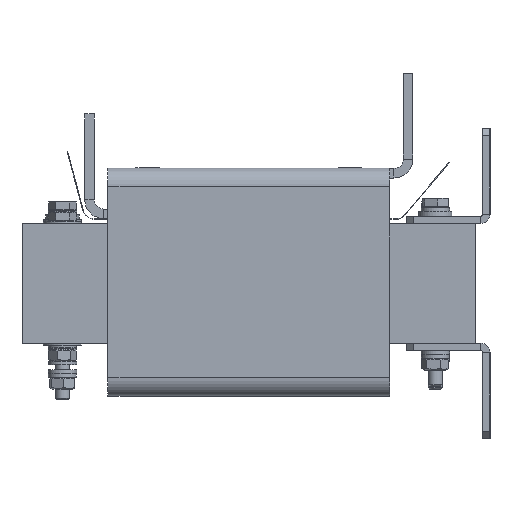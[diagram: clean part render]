
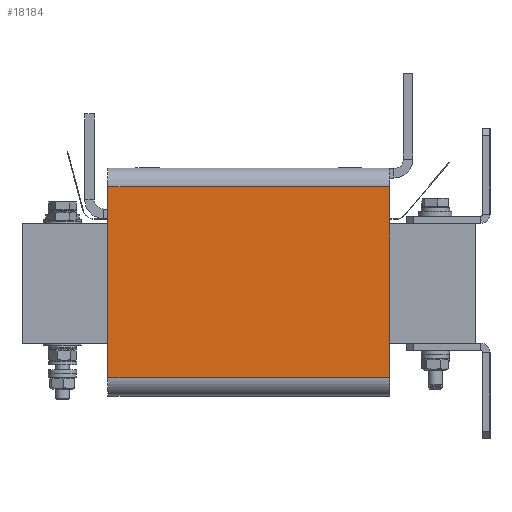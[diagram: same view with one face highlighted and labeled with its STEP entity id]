
A CAD part, left-side view. The second image highlights one B-rep face of the part: STEP entity #18184.
In plain terms, the highlighted planar face has unit normal (-1, 0, 0).
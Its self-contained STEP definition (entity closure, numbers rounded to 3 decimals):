
#905=LINE('',#27597,#2449);
#921=LINE('',#27638,#2465);
#945=LINE('',#27703,#2489);
#946=LINE('',#27705,#2490);
#2449=VECTOR('',#22336,10.);
#2465=VECTOR('',#22362,10.);
#2489=VECTOR('',#22412,10.);
#2490=VECTOR('',#22415,10.);
#4061=PLANE('',#19474);
#5222=FACE_OUTER_BOUND('',#6442,.T.);
#6442=EDGE_LOOP('',(#13979,#13980,#13981,#13982));
#8386=VERTEX_POINT('',#27594);
#8387=VERTEX_POINT('',#27596);
#8406=VERTEX_POINT('',#27635);
#8407=VERTEX_POINT('',#27637);
#10378=EDGE_CURVE('',#8386,#8387,#905,.T.);
#10398=EDGE_CURVE('',#8406,#8407,#921,.T.);
#10432=EDGE_CURVE('',#8407,#8386,#945,.T.);
#10433=EDGE_CURVE('',#8406,#8387,#946,.T.);
#13979=ORIENTED_EDGE('',*,*,#10432,.F.);
#13980=ORIENTED_EDGE('',*,*,#10398,.F.);
#13981=ORIENTED_EDGE('',*,*,#10433,.T.);
#13982=ORIENTED_EDGE('',*,*,#10378,.F.);
#18184=ADVANCED_FACE('',(#5222),#4061,.T.);
#19474=AXIS2_PLACEMENT_3D('',#27704,#22413,#22414);
#22336=DIRECTION('',(0.,0.,-1.));
#22362=DIRECTION('',(0.,0.,1.));
#22412=DIRECTION('',(0.,-1.,0.));
#22413=DIRECTION('center_axis',(-1.,0.,0.));
#22414=DIRECTION('ref_axis',(0.,0.,1.));
#22415=DIRECTION('',(0.,-1.,0.));
#27594=CARTESIAN_POINT('',(-119.3,-59.25,40.64));
#27596=CARTESIAN_POINT('',(-119.3,-59.25,-39.64));
#27597=CARTESIAN_POINT('',(-119.3,-59.25,40.64));
#27635=CARTESIAN_POINT('',(-119.3,59.25,-39.64));
#27637=CARTESIAN_POINT('',(-119.3,59.25,40.64));
#27638=CARTESIAN_POINT('',(-119.3,59.25,40.64));
#27703=CARTESIAN_POINT('',(-119.3,0.,40.64));
#27704=CARTESIAN_POINT('Origin',(-119.3,0.,-39.64));
#27705=CARTESIAN_POINT('',(-119.3,0.,-39.64));
